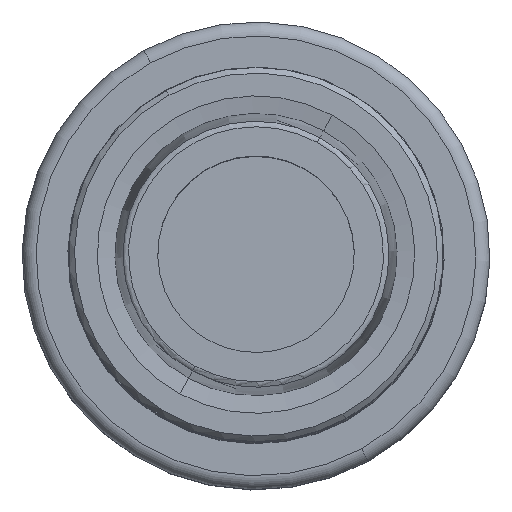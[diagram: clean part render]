
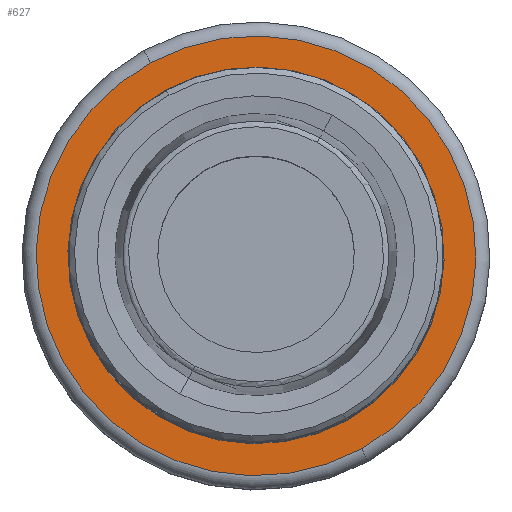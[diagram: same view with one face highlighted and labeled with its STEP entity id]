
A CAD part, top view. The second image highlights one B-rep face of the part: STEP entity #627.
In plain terms, the highlighted planar face has unit normal (0, 0, 1).
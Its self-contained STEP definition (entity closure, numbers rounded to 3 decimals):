
#571=AXIS2_PLACEMENT_3D('Circle Axis2P3D',#569,#570,$) ;
#590=AXIS2_PLACEMENT_3D('Circle Axis2P3D',#588,#589,$) ;
#603=AXIS2_PLACEMENT_3D('Plane Axis2P3D',#600,#601,#602) ;
#611=AXIS2_PLACEMENT_3D('Circle Axis2P3D',#609,#610,$) ;
#620=AXIS2_PLACEMENT_3D('Circle Axis2P3D',#618,#619,$) ;
#566=CARTESIAN_POINT('Vertex',(11.267,-20.623,-77.5)) ;
#569=CARTESIAN_POINT('Axis2P3D Location',(0.,0.,-77.5)) ;
#573=CARTESIAN_POINT('Vertex',(-11.267,20.623,-77.5)) ;
#588=CARTESIAN_POINT('Axis2P3D Location',(0.,0.,-77.5)) ;
#600=CARTESIAN_POINT('Axis2P3D Location',(0.,0.,-77.5)) ;
#609=CARTESIAN_POINT('Axis2P3D Location',(0.,0.,-77.5)) ;
#613=CARTESIAN_POINT('Vertex',(9.589,-17.552,-77.5)) ;
#615=CARTESIAN_POINT('Vertex',(-9.589,17.552,-77.5)) ;
#618=CARTESIAN_POINT('Axis2P3D Location',(0.,0.,-77.5)) ;
#570=DIRECTION('Axis2P3D Direction',(0.,0.,1.)) ;
#589=DIRECTION('Axis2P3D Direction',(0.,0.,1.)) ;
#601=DIRECTION('Axis2P3D Direction',(0.,0.,1.)) ;
#602=DIRECTION('Axis2P3D XDirection',(-1.,0.,0.)) ;
#610=DIRECTION('Axis2P3D Direction',(0.,0.,1.)) ;
#619=DIRECTION('Axis2P3D Direction',(0.,0.,1.)) ;
#606=ORIENTED_EDGE('',*,*,#575,.T.) ;
#607=ORIENTED_EDGE('',*,*,#592,.T.) ;
#624=ORIENTED_EDGE('',*,*,#617,.F.) ;
#625=ORIENTED_EDGE('',*,*,#622,.F.) ;
#626=FACE_BOUND('',#623,.T.) ;
#627=ADVANCED_FACE('NOCUT',(#608,#626),#604,.T.) ;
#572=CIRCLE('generated circle',#571,23.5) ;
#591=CIRCLE('generated circle',#590,23.5) ;
#612=CIRCLE('generated circle',#611,20.) ;
#621=CIRCLE('generated circle',#620,20.) ;
#575=EDGE_CURVE('',#574,#567,#572,.T.) ;
#592=EDGE_CURVE('',#567,#574,#591,.T.) ;
#617=EDGE_CURVE('',#614,#616,#612,.T.) ;
#622=EDGE_CURVE('',#616,#614,#621,.T.) ;
#605=EDGE_LOOP('',(#606,#607)) ;
#623=EDGE_LOOP('',(#624,#625)) ;
#608=FACE_OUTER_BOUND('',#605,.T.) ;
#604=PLANE('',#603) ;
#567=VERTEX_POINT('',#566) ;
#574=VERTEX_POINT('',#573) ;
#614=VERTEX_POINT('',#613) ;
#616=VERTEX_POINT('',#615) ;
